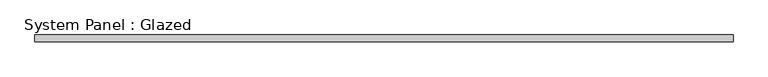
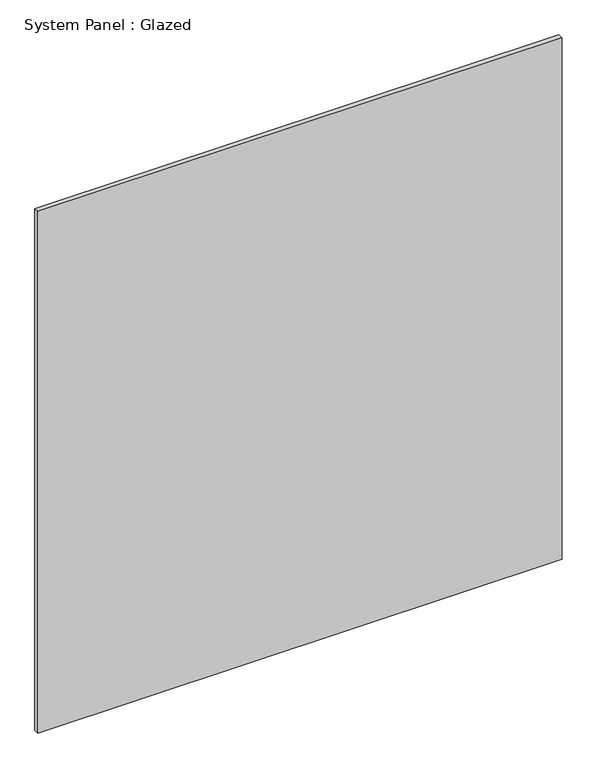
"""IFC4 building model written with IfcOpenShell, lengths in millimetres: plate geometry, System Panel : Glazed."""

from ifc_helpers import new_model, si_unit, origin, origin_with_axes, place, context, project, spatial, polyline, outline, extrude, source, transform, mapped, element, save


def system_panel_glazed_2a2db0e8(model_context):
    return source(origin(), model_context, "Body", "SweptSolid", [
        extrude(outline(polyline([(1307.5, -49.5), (-1307.5, -49.5), (-1307.5, -24.5), (1307.5, -24.5), (1307.5, -49.5)])), origin_with_axes(), (0.0, 0.0, 1.0), 2750.0),
    ])


if __name__ == "__main__":
    model = new_model("IFC4")
    model_context = context("Model", 3, world=origin())
    ifc_project = project(units=[si_unit("LENGTHUNIT", "METRE", prefix="MILLI")], contexts=[model_context])
    site = spatial("IfcSite", under=ifc_project)
    building = spatial("IfcBuilding", under=site)
    placement = place(None, origin())
    system_panel_glazed_shape = system_panel_glazed_2a2db0e8(model_context)
    element("IfcPlate", 1, ObjectType="System Panel : Glazed", at=placement, inside=building, context=model_context, shape_type="MappedRepresentation", body=[
        mapped(system_panel_glazed_shape, transform((0.0, 0.0, 0.0), x_axis=(1.0, 0.0, 0.0), y_axis=(0.0, 1.0, 0.0), z_axis=(0.0, 0.0, 1.0))),
    ])
    save(model, "model.ifc")
